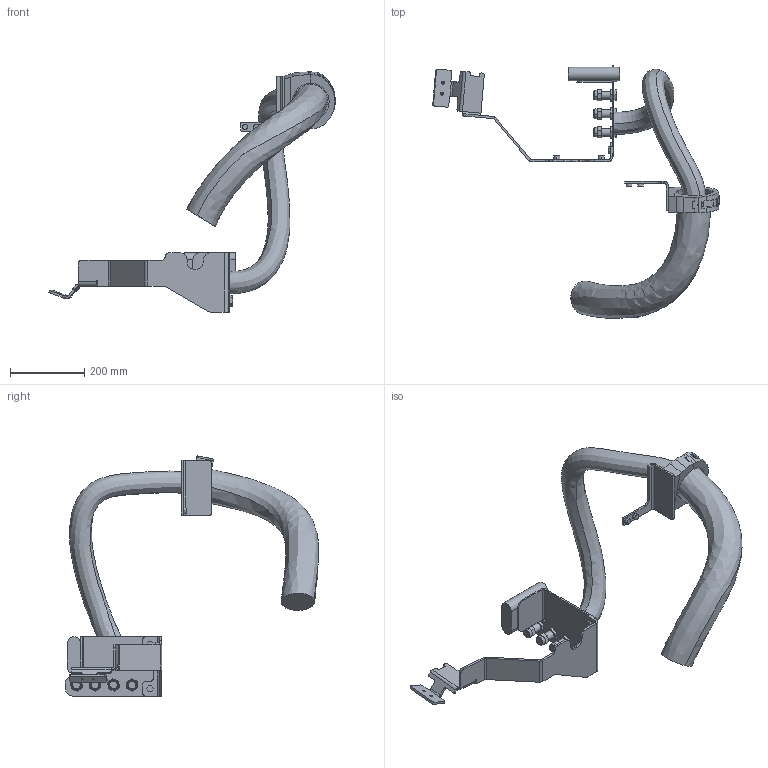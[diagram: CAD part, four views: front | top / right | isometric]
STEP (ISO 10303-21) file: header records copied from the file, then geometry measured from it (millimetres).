
FILE_DESCRIPTION (( 'STEP AP214' ), '1' );
FILE_NAME ('IRB5710-LID-SW_70kg-270_OC_00_LINK03a_CABLE.step', '2025-07-07T14:19:23', ( '' ), ( '' ), 'SwSTEP 2.0', 'SolidWorks 2024', '' );
FILE_SCHEMA (( 'AUTOMOTIVE_DESIGN' ));
Length unit declared in the file: millimetre
Products named in the file (1): IRB5710-LID-SW_70kg-270_OC_00_LINK03a_CABLE
Bounding box: 773.03 x 683.31 x 648.27 mm (x, y, z)
Volume: 7972692.6 mm3; surface area: 698586 mm2
Topology: 1 solids, 9 shells, 497 faces, 1227 edges, 794 vertices
Faces by surface type: plane 302, cylinder 143, cone 32, bspline 8, torus 8, sphere 4
Entity records: 23794 total; most frequent: CARTESIAN_POINT 6292, DIRECTION 2549, ORIENTED_EDGE 2450, EDGE_CURVE 1225, AXIS2_PLACEMENT_3D 886, VERTEX_POINT 794, LINE 777, VECTOR 777
